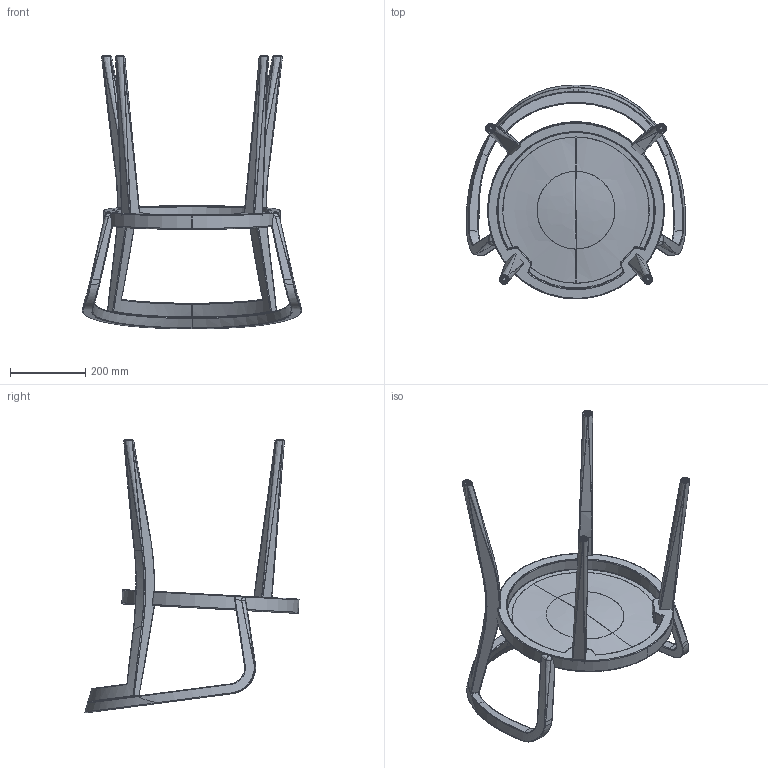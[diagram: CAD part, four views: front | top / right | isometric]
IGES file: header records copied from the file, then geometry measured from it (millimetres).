
Start section: SolidWorks IGES file using analytic representation for surfaces
Global section: file name: C:\Auftragsdaten\AU2510383 Stuhl_mit_Armlehne\AU2510383_REKO\AU2510383_REKO_Stuhl_mit_Armlehne.IGS; native system: SolidWorks 2024; preprocessor: SolidWorks 2024; author: raso; date: 250327.161427; units: millimetre
Bounding box: 581.51 x 567.94 x 726.58 mm (x, y, z)
Surface area: 932254.8 mm2 (no closed solid volume)
Topology: 0 solids, 0 shells, 309 faces, 5242 edges, 5238 vertices
Faces by surface type: bspline 243, revolution 66
